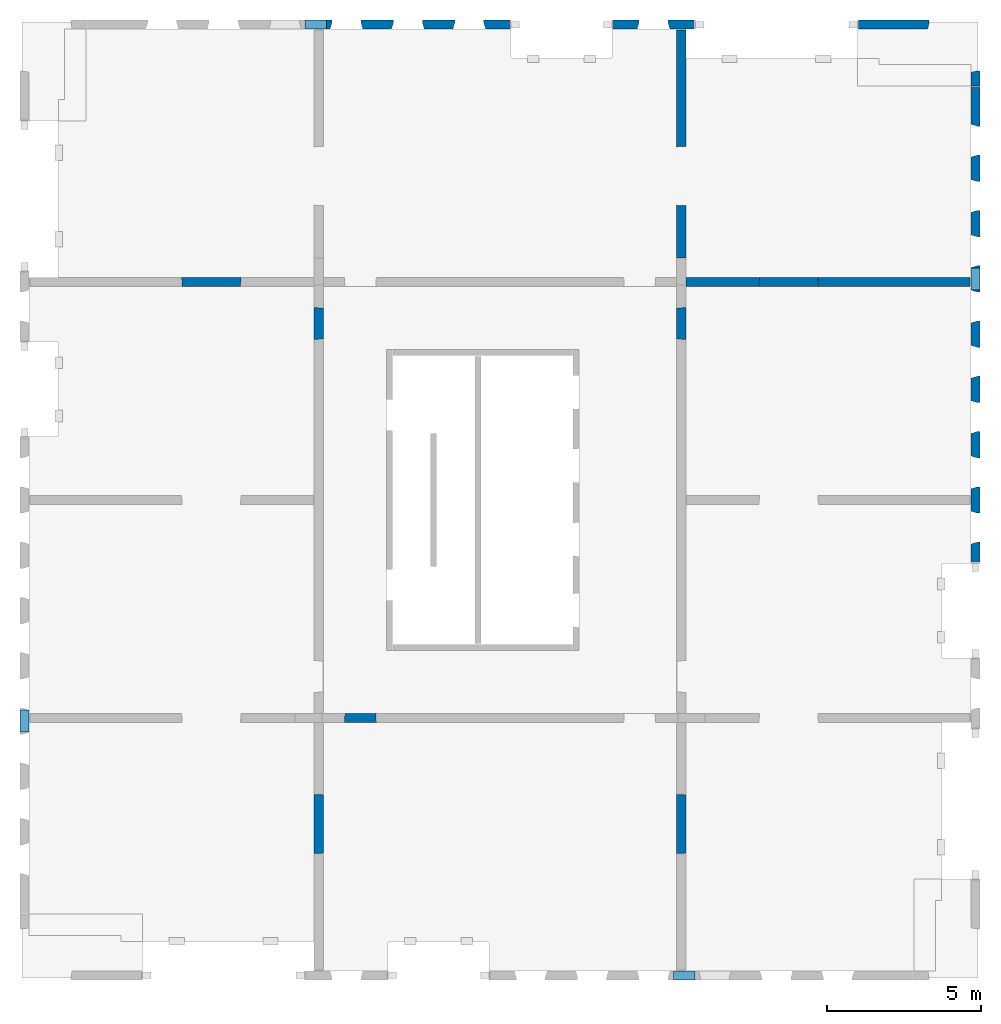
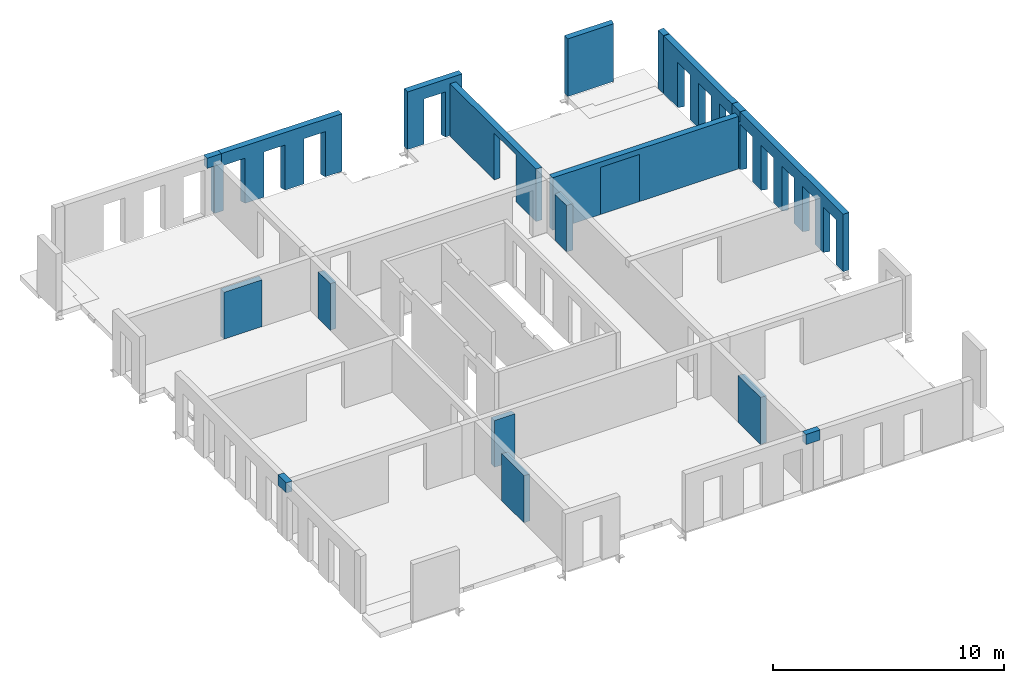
# One storey, part 4 of 4: 19 walls, 19 openings.
"""IFC2X3 building model written with IfcOpenShell, lengths in millimetres."""

from ifc_helpers import new_model, entity, si_unit, converted_unit, derived_unit, direction, frame, frame_2d, origin, place, context, subcontext, project, spatial, rectangle, extrude, faceted_brep, material, layer, layer_set, layer_usage, type_object, element, save


model = new_model("IFC2X3")

# Units and contexts
model_context = context("Model", 3, precision=0.01, world=origin(), true_north=direction((6.12303176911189e-17, 1.0)))
body_context = subcontext(model_context, "Body", "Model", "MODEL_VIEW")
ifc_project = project(units=[si_unit("LENGTHUNIT", "METRE", prefix="MILLI"), si_unit("AREAUNIT", "SQUARE_METRE"), si_unit("VOLUMEUNIT", "CUBIC_METRE"), converted_unit("PLANEANGLEUNIT", "DEGREE", entity("IfcRatioMeasure", 0.0174532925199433), si_unit("PLANEANGLEUNIT", "RADIAN"), dimensions=[0, 0, 0, 0, 0, 0, 0]), si_unit("MASSUNIT", "GRAM", prefix="KILO"), derived_unit("MASSDENSITYUNIT", [(si_unit("MASSUNIT", "GRAM", prefix="KILO"), 1), (si_unit("LENGTHUNIT", "METRE"), -3)]), si_unit("TIMEUNIT", "SECOND"), si_unit("FREQUENCYUNIT", "HERTZ"), si_unit("THERMODYNAMICTEMPERATUREUNIT", "DEGREE_CELSIUS"), derived_unit("THERMALTRANSMITTANCEUNIT", [(si_unit("MASSUNIT", "GRAM", prefix="KILO"), 1), (si_unit("THERMODYNAMICTEMPERATUREUNIT", "KELVIN"), -1), (si_unit("TIMEUNIT", "SECOND"), -3)]), derived_unit("VOLUMETRICFLOWRATEUNIT", [(si_unit("LENGTHUNIT", "METRE"), 3), (si_unit("TIMEUNIT", "SECOND"), -1)]), si_unit("ELECTRICCURRENTUNIT", "AMPERE"), si_unit("ELECTRICVOLTAGEUNIT", "VOLT"), si_unit("POWERUNIT", "WATT"), si_unit("FORCEUNIT", "NEWTON", prefix="KILO"), si_unit("ILLUMINANCEUNIT", "LUX"), si_unit("LUMINOUSFLUXUNIT", "LUMEN"), si_unit("LUMINOUSINTENSITYUNIT", "CANDELA"), derived_unit("USERDEFINED", [(si_unit("MASSUNIT", "GRAM", prefix="KILO"), -1), (si_unit("LENGTHUNIT", "METRE"), -2), (si_unit("TIMEUNIT", "SECOND"), 3), (si_unit("LUMINOUSFLUXUNIT", "LUMEN"), 1)]), derived_unit("LINEARVELOCITYUNIT", [(si_unit("LENGTHUNIT", "METRE"), 1), (si_unit("TIMEUNIT", "SECOND"), -1)]), si_unit("PRESSUREUNIT", "PASCAL"), derived_unit("USERDEFINED", [(si_unit("LENGTHUNIT", "METRE"), -2), (si_unit("MASSUNIT", "GRAM", prefix="KILO"), 1), (si_unit("TIMEUNIT", "SECOND"), -2)])], contexts=[model_context])

# Site, building, storey
site_placement = place(None, origin())
site = spatial("IfcSite", under=ifc_project, at=site_placement, Name="Default", CompositionType="ELEMENT")
building_placement = place(site_placement, origin())
building = spatial("IfcBuilding", under=site, at=building_placement, Name="niet gebruiken", CompositionType="ELEMENT")
storey_placement = place(building_placement, frame((0.0, 0.0, 146520.0)))
storey = spatial("IfcBuildingStorey", under=building, at=storey_placement, Name="47 zevenenveertigste verdieping", CompositionType="ELEMENT", Elevation=146520.0)

# Wall, opening
ifc_material_1 = material(Name="NLRS_f2_beton prefab")
ifc_layer_1 = layer(ifc_material_1, 300.0)
ifc_layer_set_1 = layer_set([ifc_layer_1], Name="Basic Wall:NLRS_22.21_WA_beton prefab d=300_gen")
ifc_layer_usage_1 = layer_usage(ifc_layer_set_1, "AXIS2", "NEGATIVE", 150.0)
wall_type_1 = type_object("IfcWallType", Name="Basic Wall:NLRS_22.21_WA_beton prefab d=300_gen", PredefinedType="STANDARD", material=ifc_layer_set_1)
wall_1_placement = place(storey_placement, frame((157060.0, 24600.0, -70.0), z_axis=(0.0, 0.0, 1.0), x_axis=(-1.0, 0.0, 0.0)))
wall_1 = element("IfcWallStandardCase", 1, at=wall_1_placement, inside=storey, type_object=wall_type_1, material=ifc_layer_usage_1, Name="Basic Wall:NLRS_22.21_WA_beton prefab d=300_gen", ObjectType="Basic Wall:NLRS_22.21_WA_beton prefab d=300_gen", context=body_context, shape_type="SweptSolid", body=[
    extrude(rectangle(XDim=9260.00000000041, YDim=300.000000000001, at=frame_2d((4630.0000000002, -1.69109171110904e-12), x_axis=(-1.0, 0.0))), origin(), (0.0, 0.0, 1.0), 2769.99999999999),
])
opening_1_placement = place(wall_1_placement, frame((6878.0, 150.0, 0.0)))
element("IfcOpeningElement", 2, at=opening_1_placement, cuts=wall_1, Name="Basic Wall:NLRS_22.21_WA_beton prefab d=300_gen", ObjectType="Opening", context=body_context, shape_type="Brep", body=[
    faceted_brep([(-18.0, -300.0, 2470.0), (-1918.0, -300.0, 2470.0), (-1918.0, -300.0, 0.0), (-18.0, -300.0, 0.0), (0.0, 0.0, 2488.0), (0.0, 0.0, 0.0), (-1936.0, 0.0, 0.0), (-1936.0, 0.0, 2488.0)], [[[0, 1, 2, 3]], [[4, 5, 6, 7]], [[4, 7, 1, 0]], [[7, 6, 2, 1]], [[6, 5, 3, 2]], [[5, 4, 0, 3]]]),
])

ifc_layer_usage_2 = layer_usage(ifc_layer_set_1, "AXIS2", "NEGATIVE", 150.0)
wall_2_placement = place(storey_placement, frame((147650.0, 25380.0, -70.0), z_axis=(0.0, 0.0, 1.0), x_axis=(0.0, 1.0, 0.0)))
wall_2 = element("IfcWallStandardCase", 3, at=wall_2_placement, inside=storey, type_object=wall_type_1, material=ifc_layer_usage_2, Name="Basic Wall:NLRS_22.21_WA_beton prefab d=300_gen", ObjectType="Basic Wall:NLRS_22.21_WA_beton prefab d=300_gen", context=body_context, shape_type="SweptSolid", body=[
    extrude(rectangle(XDim=7429.99999999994, YDim=300.000000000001, at=frame_2d((3714.99999999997, 7.14805992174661e-12), x_axis=(-1.0, 0.0))), origin(), (0.0, 0.0, 1.0), 2769.99999999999),
])
opening_2_placement = place(wall_2_placement, frame((1702.0, 150.0, 0.0)))
element("IfcOpeningElement", 4, at=opening_2_placement, cuts=wall_2, Name="Basic Wall:NLRS_22.21_WA_beton prefab d=300_gen", ObjectType="Opening", context=body_context, shape_type="Brep", body=[
    faceted_brep([(1918.0, 0.0, 2470.0), (1918.0, 0.0, 0.0), (18.0, 0.0, 0.0), (18.0, 0.0, 2470.0), (1936.0, -300.0, 2488.0), (0.0, -300.0, 2488.0), (0.0, -300.0, 0.0), (1936.0, -300.0, 0.0)], [[[0, 1, 2, 3]], [[4, 5, 6, 7]], [[4, 0, 3, 5]], [[5, 3, 2, 6]], [[6, 2, 1, 7]], [[7, 1, 0, 4]]]),
])

# Walls
ifc_material_2 = material(Name="NLRS_f2_beton ihwg")
ifc_layer_2 = layer(ifc_material_2, 300.0)
ifc_layer_set_2 = layer_set([ifc_layer_2], Name="Basic Wall:NLRS_21.21_WA_beton ihwg d=300_gen")
ifc_layer_usage_3 = layer_usage(ifc_layer_set_2, "AXIS2", "NEGATIVE", 150.0)
wall_type_2 = type_object("IfcWallType", Name="Basic Wall:NLRS_21.21_WA_beton ihwg d=300_gen", PredefinedType="STANDARD", material=ifc_layer_set_2)
wall_3_placement = place(storey_placement, frame((148105.0, 2020.0, 2455.0), z_axis=(0.0, 0.0, 1.0), x_axis=(-1.0, 0.0, 0.0)))
element("IfcWallStandardCase", 5, at=wall_3_placement, inside=storey, type_object=wall_type_2, material=ifc_layer_usage_3, Name="Basic Wall:NLRS_21.21_WA_beton ihwg d=300_gen", ObjectType="Basic Wall:NLRS_21.21_WA_beton ihwg d=300_gen", context=body_context, shape_type="SweptSolid", body=[
    extrude(rectangle(XDim=710.000000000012, YDim=300.0, at=frame_2d((355.000000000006, -1.4210854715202e-14), x_axis=(-1.0, 0.0))), origin(), (0.0, 0.0, 1.0), 535.0),
])
ifc_layer_usage_4 = layer_usage(ifc_layer_set_2, "AXIS2", "NEGATIVE", 150.0)
wall_4_placement = place(storey_placement, frame((135395.0, 32980.0, 2455.0)))
element("IfcWallStandardCase", 6, at=wall_4_placement, inside=storey, type_object=wall_type_2, material=ifc_layer_usage_4, Name="Basic Wall:NLRS_21.21_WA_beton ihwg d=300_gen", ObjectType="Basic Wall:NLRS_21.21_WA_beton ihwg d=300_gen", context=body_context, shape_type="SweptSolid", body=[
    extrude(rectangle(XDim=710.000000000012, YDim=300.000000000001, at=frame_2d((355.000000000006, 0.0), x_axis=(-1.0, 0.0))), origin(), (0.0, 0.0, 1.0), 535.0),
])
ifc_layer_usage_5 = layer_usage(ifc_layer_set_2, "AXIS2", "NEGATIVE", 150.0)
wall_5_placement = place(storey_placement, frame((157230.0, 25055.0, 2455.0), z_axis=(0.0, 0.0, 1.0), x_axis=(0.0, -1.0, 0.0)))
element("IfcWallStandardCase", 7, at=wall_5_placement, inside=storey, type_object=wall_type_2, material=ifc_layer_usage_5, Name="Basic Wall:NLRS_21.21_WA_beton ihwg d=300_gen", ObjectType="Basic Wall:NLRS_21.21_WA_beton ihwg d=300_gen", context=body_context, shape_type="SweptSolid", body=[
    extrude(rectangle(XDim=710.000000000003, YDim=300.000000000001, at=frame_2d((355.000000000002, 9.9475983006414e-13), x_axis=(-1.0, 0.0))), origin(), (0.0, 0.0, 1.0), 535.0),
])
ifc_layer_usage_6 = layer_usage(ifc_layer_set_2, "AXIS2", "NEGATIVE", 150.0)
wall_6_placement = place(storey_placement, frame((126270.0, 9945.0, 2455.0), z_axis=(0.0, 0.0, 1.0), x_axis=(0.0, 1.0, 0.0)))
element("IfcWallStandardCase", 8, at=wall_6_placement, inside=storey, type_object=wall_type_2, material=ifc_layer_usage_6, Name="Basic Wall:NLRS_21.21_WA_beton ihwg d=300_gen", ObjectType="Basic Wall:NLRS_21.21_WA_beton ihwg d=300_gen", context=body_context, shape_type="SweptSolid", body=[
    extrude(rectangle(XDim=710.000000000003, YDim=300.000000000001, at=frame_2d((355.000000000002, 0.0), x_axis=(-1.0, 0.0))), origin(), (0.0, 0.0, 1.0), 535.0),
])

# Wall, opening
ifc_layer_3 = layer(ifc_material_1, 300.0)
ifc_layer_set_3 = layer_set([ifc_layer_3], Name="Basic Wall:NLRS_21.21_WA_beton prefab d=300/320_gen")
ifc_layer_usage_7 = layer_usage(ifc_layer_set_3, "AXIS2", "NEGATIVE", 150.0)
wall_type_3 = type_object("IfcWallType", Name="Basic Wall:NLRS_21.21_WA_beton prefab d=300/320_gen", PredefinedType="STANDARD", material=ifc_layer_set_3)
wall_7_placement = place(storey_placement, frame((145390.0, 32980.0, -50.0)))
wall_7 = element("IfcWallStandardCase", 9, at=wall_7_placement, inside=storey, type_object=wall_type_3, material=ifc_layer_usage_7, Name="Basic Wall:NLRS_21.21_WA_beton prefab d=300/320_gen", ObjectType="Basic Wall:NLRS_21.21_WA_beton prefab d=300/320_gen", context=body_context, shape_type="SweptSolid", body=[
    extrude(rectangle(XDim=2720.00000000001, YDim=300.000000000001, at=frame_2d((1360.0, -4.54747350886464e-13), x_axis=(-1.0, 0.0))), origin(), (0.0, 0.0, 1.0), 3040.0),
])
opening_3_placement = place(wall_7_placement, frame((825.0, -150.0, -20.0)))
element("IfcOpeningElement", 10, at=opening_3_placement, cuts=wall_7, Name="Basic Wall:NLRS_21.21_WA_beton prefab d=300/320_gen", ObjectType="Opening", context=body_context, shape_type="Brep", body=[
    faceted_brep([(0.0, 0.0, 2405.0), (0.0, 0.0, 0.0), (1070.0, 0.0, 0.0), (1070.0, 0.0, 2405.0), (1005.0, 219.0, 2370.0), (65.0, 219.0, 2370.0), (1005.0, 219.0, 0.0), (65.0, 219.0, 0.0), (65.0, 300.0, 0.0), (1005.0, 300.0, 0.0), (65.0, 300.0, 2370.0), (1005.0, 300.0, 2370.0)], [[[0, 1, 2, 3]], [[3, 4, 5, 0]], [[2, 6, 4, 3]], [[1, 7, 8, 9, 6, 2]], [[0, 5, 7, 1]], [[10, 11, 9, 8]], [[10, 5, 4, 11]], [[11, 4, 6, 9]], [[8, 7, 5, 10]]]),
])

# Wall, openings
ifc_layer_usage_8 = layer_usage(ifc_layer_set_3, "AXIS2", "NEGATIVE", 150.0)
wall_8_placement = place(storey_placement, frame((157230.0, 30960.0, -50.0), z_axis=(0.0, 0.0, 1.0), x_axis=(0.0, -1.0, 0.0)))
wall_8 = element("IfcWallStandardCase", 11, at=wall_8_placement, inside=storey, type_object=wall_type_3, material=ifc_layer_usage_8, Name="Basic Wall:NLRS_21.21_WA_beton prefab d=300/320_gen", ObjectType="Basic Wall:NLRS_21.21_WA_beton prefab d=300/320_gen", context=body_context, shape_type="SweptSolid", body=[
    extrude(rectangle(XDim=6249.99999999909, YDim=300.000000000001, at=frame_2d((3124.99999999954, -8.61177795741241e-12), x_axis=(-1.0, 0.0))), origin(), (0.0, 0.0, 1.0), 3040.0),
])
opening_4_placement = place(wall_8_placement, frame((2295.0, -150.0, -20.0)))
element("IfcOpeningElement", 12, at=opening_4_placement, cuts=wall_8, Name="Basic Wall:NLRS_21.21_WA_beton prefab d=300/320_gen", ObjectType="Opening", context=body_context, shape_type="Brep", body=[
    faceted_brep([(-1070.0, 0.0, 2405.0), (-1070.0, 0.0, 0.0), (0.0, 0.0, 0.0), (0.0, 0.0, 2405.0), (-65.0, 219.0, 2370.0), (-1005.0, 219.0, 2370.0), (-65.0, 219.0, 0.0), (-1005.0, 219.0, 0.0), (-1005.0, 300.0, 0.0), (-65.0, 300.0, 0.0), (-1005.0, 300.0, 2370.0), (-65.0, 300.0, 2370.0)], [[[0, 1, 2, 3]], [[3, 4, 5, 0]], [[2, 6, 4, 3]], [[1, 7, 8, 9, 6, 2]], [[0, 5, 7, 1]], [[10, 11, 9, 8]], [[10, 5, 4, 11]], [[11, 4, 6, 9]], [[8, 7, 5, 10]]]),
])
opening_5_placement = place(wall_8_placement, frame((4095.0, -150.0, -20.0)))
element("IfcOpeningElement", 13, at=opening_5_placement, cuts=wall_8, Name="Basic Wall:NLRS_21.21_WA_beton prefab d=300/320_gen", ObjectType="Opening", context=body_context, shape_type="Brep", body=[
    faceted_brep([(-1070.0, 0.0, 2405.0), (-1070.0, 0.0, 0.0), (0.0, 0.0, 0.0), (0.0, 0.0, 2405.0), (-65.0, 219.0, 2370.0), (-1005.0, 219.0, 2370.0), (-65.0, 219.0, 0.0), (-1005.0, 219.0, 0.0), (-1005.0, 300.0, 0.0), (-65.0, 300.0, 0.0), (-1005.0, 300.0, 2370.0), (-65.0, 300.0, 2370.0)], [[[0, 1, 2, 3]], [[3, 4, 5, 0]], [[2, 6, 4, 3]], [[1, 7, 8, 9, 6, 2]], [[0, 5, 7, 1]], [[10, 11, 9, 8]], [[10, 5, 4, 11]], [[11, 4, 6, 9]], [[8, 7, 5, 10]]]),
])
opening_6_placement = place(wall_8_placement, frame((5895.0, -150.0, -20.0)))
element("IfcOpeningElement", 14, at=opening_6_placement, cuts=wall_8, Name="Basic Wall:NLRS_21.21_WA_beton prefab d=300/320_gen", ObjectType="Opening", context=body_context, shape_type="Brep", body=[
    faceted_brep([(-1070.0, 0.0, 2405.0), (-1070.0, 0.0, 0.0), (0.0, 0.0, 0.0), (0.0, 0.0, 2405.0), (-65.0, 219.0, 2370.0), (-1005.0, 219.0, 2370.0), (-65.0, 219.0, 0.0), (-1005.0, 219.0, 0.0), (-1005.0, 300.0, 0.0), (-65.0, 300.0, 0.0), (-1005.0, 300.0, 2370.0), (-65.0, 300.0, 2370.0)], [[[0, 1, 2, 3]], [[3, 4, 5, 0]], [[2, 6, 4, 3]], [[1, 7, 8, 9, 6, 2]], [[0, 5, 7, 1]], [[10, 11, 9, 8]], [[10, 5, 4, 11]], [[11, 4, 6, 9]], [[8, 7, 5, 10]]]),
])
opening_7_placement = place(wall_8_placement, origin())
element("IfcOpeningElement", 15, at=opening_7_placement, cuts=wall_8, Name="Basic Wall:NLRS_21.21_WA_beton prefab d=300/320_gen", ObjectType="Opening", context=body_context, shape_type="SweptSolid", body=[
    extrude(rectangle(XDim=534.99999999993, YDim=344.999999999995, at=frame_2d((0.0, -2.17426077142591e-12), x_axis=(1.0, 0.0))), frame((6077.49999999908, 150.0, 2772.50000000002), z_axis=(0.0, -1.0, 0.0), x_axis=(0.0, 0.0, 1.0)), (0.0, 0.0, 1.0), 300.0),
])

# Wall, opening
ifc_layer_usage_9 = layer_usage(ifc_layer_set_3, "AXIS2", "NEGATIVE", 150.0)
wall_9_placement = place(storey_placement, frame((153390.0, 32980.0, -50.0)))
wall_9 = element("IfcWallStandardCase", 16, at=wall_9_placement, inside=storey, type_object=wall_type_3, material=ifc_layer_usage_9, Name="Basic Wall:NLRS_21.21_WA_beton prefab d=300/320_gen", ObjectType="Basic Wall:NLRS_21.21_WA_beton prefab d=300/320_gen", context=body_context, shape_type="SweptSolid", body=[
    extrude(rectangle(XDim=2330.00000000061, YDim=300.000000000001, at=frame_2d((1165.00000000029, -1.29318777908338e-12), x_axis=(-1.0, 0.0))), origin(), (0.0, 0.0, 1.0), 3040.0),
])
opening_8_placement = place(wall_9_placement, frame((2265.0, -250.0, 0.0)))
element("IfcOpeningElement", 17, at=opening_8_placement, cuts=wall_9, Name="Basic Wall:NLRS_21.21_WA_beton prefab d=300/320_gen", ObjectType="Opening", context=body_context, shape_type="Brep", body=[
    faceted_brep([(65.0, 0.0, 3040.0), (65.0, 319.0, 3040.0), (0.0, 0.0, 3040.0), (65.0, 0.0, 0.0), (0.0, 0.0, 0.0), (65.0, 319.0, 0.0)], [[[0, 1, 2]], [[3, 4, 5]], [[2, 4, 3, 0]], [[0, 3, 5, 1]], [[1, 5, 4, 2]]]),
])

ifc_layer_usage_10 = layer_usage(ifc_layer_set_3, "AXIS2", "NEGATIVE", 150.0)
wall_10_placement = place(storey_placement, frame((157230.0, 31470.0, -50.0), z_axis=(0.0, 0.0, 1.0), x_axis=(0.0, -1.0, 0.0)))
wall_10 = element("IfcWallStandardCase", 18, at=wall_10_placement, inside=storey, type_object=wall_type_3, material=ifc_layer_usage_10, Name="Basic Wall:NLRS_21.21_WA_beton prefab d=300/320_gen", ObjectType="Basic Wall:NLRS_21.21_WA_beton prefab d=300/320_gen", context=body_context, shape_type="SweptSolid", body=[
    extrude(rectangle(XDim=489.999999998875, YDim=300.000000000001, at=frame_2d((244.999999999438, -7.8159700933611e-13), x_axis=(-1.0, 0.0))), origin(), (0.0, 0.0, 1.0), 3040.0),
])
opening_9_placement = place(wall_10_placement, frame((65.0, -250.0, 0.0)))
element("IfcOpeningElement", 19, at=opening_9_placement, cuts=wall_10, Name="Basic Wall:NLRS_21.21_WA_beton prefab d=300/320_gen", ObjectType="Opening", context=body_context, shape_type="Brep", body=[
    faceted_brep([(-65.0, 0.0, 3040.0), (0.0, 0.0, 3040.0), (-65.0, 319.0, 3040.0), (-65.0, 0.0, 0.0), (-65.0, 319.0, 0.0), (0.0, 0.0, 0.0)], [[[0, 1, 2]], [[3, 4, 5]], [[1, 0, 3, 5]], [[0, 2, 4, 3]], [[2, 1, 5, 4]]]),
])

# Wall, openings
ifc_layer_usage_11 = layer_usage(ifc_layer_set_3, "AXIS2", "NEGATIVE", 150.0)
wall_11_placement = place(storey_placement, frame((157230.0, 24690.0, -50.0), z_axis=(0.0, 0.0, 1.0), x_axis=(0.0, -1.0, 0.0)))
wall_11 = element("IfcWallStandardCase", 20, at=wall_11_placement, inside=storey, type_object=wall_type_3, material=ifc_layer_usage_11, Name="Basic Wall:NLRS_21.21_WA_beton prefab d=300/320_gen", ObjectType="Basic Wall:NLRS_21.21_WA_beton prefab d=300/320_gen", context=body_context, shape_type="SweptSolid", body=[
    extrude(rectangle(XDim=9250.00000000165, YDim=300.000000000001, at=frame_2d((4625.00000000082, -4.43378667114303e-12), x_axis=(-1.0, 0.0))), origin(), (0.0, 0.0, 1.0), 3040.0),
])
opening_10_placement = place(wall_11_placement, frame((8625.0, -150.0, -20.0)))
element("IfcOpeningElement", 21, at=opening_10_placement, cuts=wall_11, Name="Basic Wall:NLRS_21.21_WA_beton prefab d=300/320_gen", ObjectType="Opening", context=body_context, shape_type="Brep", body=[
    faceted_brep([(-1070.0, 0.0, 2405.0), (-1070.0, 0.0, 0.0), (0.0, 0.0, 0.0), (0.0, 0.0, 2405.0), (-65.0, 219.0, 2370.0), (-1005.0, 219.0, 2370.0), (-65.0, 219.0, 0.0), (-1005.0, 219.0, 0.0), (-1005.0, 300.0, 0.0), (-65.0, 300.0, 0.0), (-1005.0, 300.0, 2370.0), (-65.0, 300.0, 2370.0)], [[[0, 1, 2, 3]], [[3, 4, 5, 0]], [[2, 6, 4, 3]], [[1, 7, 8, 9, 6, 2]], [[0, 5, 7, 1]], [[10, 11, 9, 8]], [[10, 5, 4, 11]], [[11, 4, 6, 9]], [[8, 7, 5, 10]]]),
])
opening_11_placement = place(wall_11_placement, frame((5025.0, -150.0, -20.0)))
element("IfcOpeningElement", 22, at=opening_11_placement, cuts=wall_11, Name="Basic Wall:NLRS_21.21_WA_beton prefab d=300/320_gen", ObjectType="Opening", context=body_context, shape_type="Brep", body=[
    faceted_brep([(-1070.0, 0.0, 2405.0), (-1070.0, 0.0, 0.0), (0.0, 0.0, 0.0), (0.0, 0.0, 2405.0), (-65.0, 219.0, 2370.0), (-1005.0, 219.0, 2370.0), (-65.0, 219.0, 0.0), (-1005.0, 219.0, 0.0), (-1005.0, 300.0, 0.0), (-65.0, 300.0, 0.0), (-1005.0, 300.0, 2370.0), (-65.0, 300.0, 2370.0)], [[[0, 1, 2, 3]], [[3, 4, 5, 0]], [[2, 6, 4, 3]], [[1, 7, 8, 9, 6, 2]], [[0, 5, 7, 1]], [[10, 11, 9, 8]], [[10, 5, 4, 11]], [[11, 4, 6, 9]], [[8, 7, 5, 10]]]),
])
opening_12_placement = place(wall_11_placement, frame((3225.0, -150.0, -20.0)))
element("IfcOpeningElement", 23, at=opening_12_placement, cuts=wall_11, Name="Basic Wall:NLRS_21.21_WA_beton prefab d=300/320_gen", ObjectType="Opening", context=body_context, shape_type="Brep", body=[
    faceted_brep([(-1070.0, 0.0, 2405.0), (-1070.0, 0.0, 0.0), (0.0, 0.0, 0.0), (0.0, 0.0, 2405.0), (-65.0, 219.0, 2370.0), (-1005.0, 219.0, 2370.0), (-65.0, 219.0, 0.0), (-1005.0, 219.0, 0.0), (-1005.0, 300.0, 0.0), (-65.0, 300.0, 0.0), (-1005.0, 300.0, 2370.0), (-65.0, 300.0, 2370.0)], [[[0, 1, 2, 3]], [[3, 4, 5, 0]], [[2, 6, 4, 3]], [[1, 7, 8, 9, 6, 2]], [[0, 5, 7, 1]], [[10, 11, 9, 8]], [[10, 5, 4, 11]], [[11, 4, 6, 9]], [[8, 7, 5, 10]]]),
])
opening_13_placement = place(wall_11_placement, frame((6825.0, -150.0, -20.0)))
element("IfcOpeningElement", 24, at=opening_13_placement, cuts=wall_11, Name="Basic Wall:NLRS_21.21_WA_beton prefab d=300/320_gen", ObjectType="Opening", context=body_context, shape_type="Brep", body=[
    faceted_brep([(-1070.0, 0.0, 2405.0), (-1070.0, 0.0, 0.0), (0.0, 0.0, 0.0), (0.0, 0.0, 2405.0), (-65.0, 219.0, 2370.0), (-1005.0, 219.0, 2370.0), (-65.0, 219.0, 0.0), (-1005.0, 219.0, 0.0), (-1005.0, 300.0, 0.0), (-65.0, 300.0, 0.0), (-1005.0, 300.0, 2370.0), (-65.0, 300.0, 2370.0)], [[[0, 1, 2, 3]], [[3, 4, 5, 0]], [[2, 6, 4, 3]], [[1, 7, 8, 9, 6, 2]], [[0, 5, 7, 1]], [[10, 11, 9, 8]], [[10, 5, 4, 11]], [[11, 4, 6, 9]], [[8, 7, 5, 10]]]),
])
opening_14_placement = place(wall_11_placement, frame((1425.0, -150.0, -20.0)))
element("IfcOpeningElement", 25, at=opening_14_placement, cuts=wall_11, Name="Basic Wall:NLRS_21.21_WA_beton prefab d=300/320_gen", ObjectType="Opening", context=body_context, shape_type="Brep", body=[
    faceted_brep([(0.0, 0.0, 2405.0), (-1070.0, 0.0, 2405.0), (-1070.0, 0.0, 0.0), (0.0, 0.0, 0.0), (-65.0, 219.0, 2370.0), (-1005.0, 219.0, 2370.0), (-1005.0, 219.0, 0.0), (-1005.0, 300.0, 0.0), (-65.0, 300.0, 0.0), (-65.0, 219.0, 0.0), (-65.0, 300.0, 2370.0), (-1005.0, 300.0, 2370.0)], [[[0, 1, 2, 3]], [[1, 0, 4, 5]], [[2, 1, 5, 6]], [[3, 2, 6, 7, 8, 9]], [[0, 3, 9, 4]], [[10, 8, 7, 11]], [[10, 11, 5, 4]], [[11, 7, 6, 5]], [[8, 10, 4, 9]]]),
])
opening_15_placement = place(wall_11_placement, origin())
element("IfcOpeningElement", 26, at=opening_15_placement, cuts=wall_11, Name="Basic Wall:NLRS_21.21_WA_beton prefab d=300/320_gen", ObjectType="Opening", context=body_context, shape_type="SweptSolid", body=[
    extrude(rectangle(XDim=534.999999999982, YDim=345.000000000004, at=frame_2d((-2.1600499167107e-12, -8.66862137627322e-12), x_axis=(0.0, 1.0))), frame((172.5, 150.0, 2772.5), z_axis=(0.0, -1.0, 0.0), x_axis=(-1.0, 0.0, 0.0)), (0.0, 0.0, 1.0), 300.0),
])

ifc_layer_usage_12 = layer_usage(ifc_layer_set_3, "AXIS2", "NEGATIVE", 150.0)
wall_12_placement = place(storey_placement, frame((135760.0, 32980.0, -50.0)))
wall_12 = element("IfcWallStandardCase", 27, at=wall_12_placement, inside=storey, type_object=wall_type_3, material=ifc_layer_usage_12, Name="Basic Wall:NLRS_21.21_WA_beton prefab d=300/320_gen", ObjectType="Basic Wall:NLRS_21.21_WA_beton prefab d=300/320_gen", context=body_context, shape_type="SweptSolid", body=[
    extrude(rectangle(XDim=6350.00000000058, YDim=300.000000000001, at=frame_2d((3175.00000000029, 0.0), x_axis=(-1.0, 0.0))), origin(), (0.0, 0.0, 1.0), 3040.0),
])
opening_16_placement = place(wall_12_placement, frame((455.0, -150.0, -20.0)))
element("IfcOpeningElement", 28, at=opening_16_placement, cuts=wall_12, Name="Basic Wall:NLRS_21.21_WA_beton prefab d=300/320_gen", ObjectType="Opening", context=body_context, shape_type="Brep", body=[
    faceted_brep([(1070.0, 0.0, 2405.0), (0.0, 0.0, 2405.0), (0.0, 0.0, 0.0), (1070.0, 0.0, 0.0), (1005.0, 219.0, 2370.0), (65.0, 219.0, 2370.0), (65.0, 219.0, 0.0), (65.0, 300.0, 0.0), (1005.0, 300.0, 0.0), (1005.0, 219.0, 0.0), (1005.0, 300.0, 2370.0), (65.0, 300.0, 2370.0)], [[[0, 1, 2, 3]], [[1, 0, 4, 5]], [[2, 1, 5, 6]], [[3, 2, 6, 7, 8, 9]], [[0, 3, 9, 4]], [[10, 8, 7, 11]], [[10, 11, 5, 4]], [[11, 7, 6, 5]], [[8, 10, 4, 9]]]),
])
opening_17_placement = place(wall_12_placement, frame((2455.0, -150.0, -20.0)))
element("IfcOpeningElement", 29, at=opening_17_placement, cuts=wall_12, Name="Basic Wall:NLRS_21.21_WA_beton prefab d=300/320_gen", ObjectType="Opening", context=body_context, shape_type="Brep", body=[
    faceted_brep([(1070.0, 0.0, 2405.0), (0.0, 0.0, 2405.0), (0.0, 0.0, 0.0), (1070.0, 0.0, 0.0), (1005.0, 219.0, 2370.0), (65.0, 219.0, 2370.0), (65.0, 219.0, 0.0), (65.0, 300.0, 0.0), (1005.0, 300.0, 0.0), (1005.0, 219.0, 0.0), (1005.0, 300.0, 2370.0), (65.0, 300.0, 2370.0)], [[[0, 1, 2, 3]], [[1, 0, 4, 5]], [[2, 1, 5, 6]], [[3, 2, 6, 7, 8, 9]], [[0, 3, 9, 4]], [[10, 8, 7, 11]], [[10, 11, 5, 4]], [[11, 7, 6, 5]], [[8, 10, 4, 9]]]),
])
opening_18_placement = place(wall_12_placement, frame((4455.0, -150.0, -20.0)))
element("IfcOpeningElement", 30, at=opening_18_placement, cuts=wall_12, Name="Basic Wall:NLRS_21.21_WA_beton prefab d=300/320_gen", ObjectType="Opening", context=body_context, shape_type="Brep", body=[
    faceted_brep([(1070.0, 0.0, 2405.0), (0.0, 0.0, 2405.0), (0.0, 0.0, 0.0), (1070.0, 0.0, 0.0), (1005.0, 219.0, 2370.0), (65.0, 219.0, 2370.0), (65.0, 219.0, 0.0), (65.0, 300.0, 0.0), (1005.0, 300.0, 0.0), (1005.0, 219.0, 0.0), (1005.0, 300.0, 2370.0), (65.0, 300.0, 2370.0)], [[[0, 1, 2, 3]], [[1, 0, 4, 5]], [[2, 1, 5, 6]], [[3, 2, 6, 7, 8, 9]], [[0, 3, 9, 4]], [[10, 8, 7, 11]], [[10, 11, 5, 4]], [[11, 7, 6, 5]], [[8, 10, 4, 9]]]),
])
opening_19_placement = place(wall_12_placement, origin())
element("IfcOpeningElement", 31, at=opening_19_placement, cuts=wall_12, Name="Basic Wall:NLRS_21.21_WA_beton prefab d=300/320_gen", ObjectType="Opening", context=body_context, shape_type="SweptSolid", body=[
    extrude(rectangle(XDim=534.999999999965, YDim=345.000000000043, at=frame_2d((0.0, 0.0), x_axis=(0.0, 1.0))), frame((172.500000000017, 150.0, 2772.5), z_axis=(0.0, -1.0, 0.0), x_axis=(-1.0, 0.0, 0.0)), (0.0, 0.0, 1.0), 300.0),
])

# Walls
ifc_material_3 = material(Name="NLRS_f2_beton prefab dichtstorten")
wall_type_4 = type_object("IfcWallType", Name="Parametric Wall:NLRS_22.21_WA_beton prefab d=500 1900x2470_gen", PredefinedType="NOTDEFINED", material=ifc_material_3)
for number, where, z_axis, x_axis in (
    (32, (135700.0, 5982.0, -70.0), (0.0, 0.0, 1.0), (0.0, 1.0, 0.0)),
    (33, (147500.0, 5982.0, -70.0), (0.0, 0.0, 1.0), (0.0, 1.0, 0.0)),
):
    element("IfcWall", number, at=place(storey_placement, frame(where, z_axis=z_axis, x_axis=x_axis)), inside=storey, type_object=wall_type_4, material=ifc_material_3, Name="Parametric Wall:NLRS_22.21_WA_beton prefab d=500 1900x2470_gen", ObjectType="Parametric Wall:NLRS_22.21_WA_beton prefab d=500 1900x2470_gen", context=body_context, shape_type="Brep", body=[
        faceted_brep([(1936.0, 0.0, 2488.0), (1936.0, 0.0, 0.0), (0.0, 0.0, 0.0), (0.0, 0.0, 2488.0), (1918.0, -300.0, 2470.0), (18.0, -300.0, 2470.0), (18.0, -300.0, 0.0), (1918.0, -300.0, 0.0)], [[[0, 1, 2, 3]], [[4, 5, 6, 7]], [[4, 7, 1, 0]], [[7, 6, 2, 1]], [[6, 5, 3, 2]], [[5, 4, 0, 3]]]),
    ])
wall_13_placement = place(storey_placement, frame((150182.0, 24450.0, -70.0)))
element("IfcWall", 34, at=wall_13_placement, inside=storey, type_object=wall_type_4, material=ifc_material_3, Name="Parametric Wall:NLRS_22.21_WA_beton prefab d=500 1900x2470_gen", ObjectType="Parametric Wall:NLRS_22.21_WA_beton prefab d=500 1900x2470_gen", context=body_context, shape_type="Brep", body=[
    faceted_brep([(0.0, 0.0, 2488.0), (0.0, 0.0, 0.0), (1936.0, 0.0, 0.0), (1936.0, 0.0, 2488.0), (18.0, 300.0, 2470.0), (1918.0, 300.0, 2470.0), (1918.0, 300.0, 0.0), (18.0, 300.0, 0.0)], [[[0, 1, 2, 3]], [[4, 5, 6, 7]], [[4, 7, 1, 0]], [[7, 6, 2, 1]], [[6, 5, 3, 2]], [[5, 4, 0, 3]]]),
])
wall_14_placement = place(storey_placement, frame((131382.0, 24450.0, -70.0)))
element("IfcWall", 35, at=wall_14_placement, inside=storey, type_object=wall_type_4, material=ifc_material_3, Name="Parametric Wall:NLRS_22.21_WA_beton prefab d=500 1900x2470_gen", ObjectType="Parametric Wall:NLRS_22.21_WA_beton prefab d=500 1900x2470_gen", context=body_context, shape_type="Brep", body=[
    faceted_brep([(1936.0, 300.0, 2488.0), (1936.0, 300.0, 0.0), (0.0, 300.0, 0.0), (0.0, 300.0, 2488.0), (1918.0, 0.0, 2470.0), (18.0, 0.0, 2470.0), (18.0, 0.0, 0.0), (1918.0, 0.0, 0.0)], [[[0, 1, 2, 3]], [[4, 5, 6, 7]], [[4, 7, 1, 0]], [[7, 6, 2, 1]], [[6, 5, 3, 2]], [[5, 4, 0, 3]]]),
])
wall_type_5 = type_object("IfcWallType", Name="Parametric Wall:NLRS_22.21_WA_beton prefab d=500 1006x2448_gen", PredefinedType="NOTDEFINED", material=ifc_material_3)
wall_15_placement = place(storey_placement, frame((136682.0, 10250.0, -70.0)))
element("IfcWall", 36, at=wall_15_placement, inside=storey, type_object=wall_type_5, material=ifc_material_3, Name="Parametric Wall:NLRS_22.21_WA_beton prefab d=500 1006x2448_gen", ObjectType="Parametric Wall:NLRS_22.21_WA_beton prefab d=500 1006x2448_gen", context=body_context, shape_type="Brep", body=[
    faceted_brep([(0.0, 0.0, 2466.0), (0.0, 0.0, 0.0), (1042.0, 0.0, 0.0), (1042.0, 0.0, 2466.0), (18.0, 300.0, 2448.0), (1024.0, 300.0, 2448.0), (1024.0, 300.0, 0.0), (18.0, 300.0, 0.0)], [[[0, 1, 2, 3]], [[4, 5, 6, 7]], [[4, 7, 1, 0]], [[7, 6, 2, 1]], [[6, 5, 3, 2]], [[5, 4, 0, 3]]]),
])
wall_16_placement = place(storey_placement, frame((135700.0, 22726.0, -70.0), z_axis=(0.0, 0.0, 1.0), x_axis=(0.0, 1.0, 0.0)))
element("IfcWall", 37, at=wall_16_placement, inside=storey, type_object=wall_type_5, material=ifc_material_3, Name="Parametric Wall:NLRS_22.21_WA_beton prefab d=500 1006x2448_gen", ObjectType="Parametric Wall:NLRS_22.21_WA_beton prefab d=500 1006x2448_gen", context=body_context, shape_type="Brep", body=[
    faceted_brep([(1042.0, 0.0, 2466.0), (1042.0, 0.0, 0.0), (0.0, 0.0, 0.0), (0.0, 0.0, 2466.0), (1024.0, -300.0, 2448.0), (18.0, -300.0, 2448.0), (18.0, -300.0, 0.0), (1024.0, -300.0, 0.0)], [[[0, 1, 2, 3]], [[4, 5, 6, 7]], [[4, 7, 1, 0]], [[7, 6, 2, 1]], [[6, 5, 3, 2]], [[5, 4, 0, 3]]]),
])
wall_17_placement = place(storey_placement, frame((147500.0, 22726.0, -70.0), z_axis=(0.0, 0.0, 1.0), x_axis=(0.0, 1.0, 0.0)))
element("IfcWall", 38, at=wall_17_placement, inside=storey, type_object=wall_type_5, material=ifc_material_3, Name="Parametric Wall:NLRS_22.21_WA_beton prefab d=500 1006x2448_gen", ObjectType="Parametric Wall:NLRS_22.21_WA_beton prefab d=500 1006x2448_gen", context=body_context, shape_type="Brep", body=[
    faceted_brep([(0.0, -300.0, 2466.0), (0.0, -300.0, 0.0), (1042.0, -300.0, 0.0), (1042.0, -300.0, 2466.0), (18.0, 0.0, 2448.0), (1024.0, 0.0, 2448.0), (1024.0, 0.0, 0.0), (18.0, 0.0, 0.0)], [[[0, 1, 2, 3]], [[4, 5, 6, 7]], [[4, 7, 1, 0]], [[7, 6, 2, 1]], [[6, 5, 3, 2]], [[5, 4, 0, 3]]]),
])

save(model, "model.ifc")
